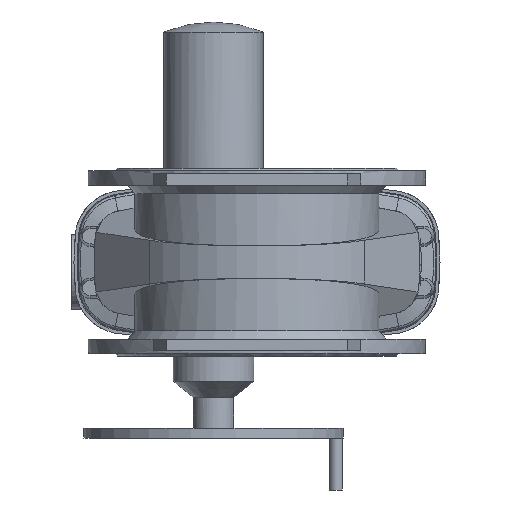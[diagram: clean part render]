
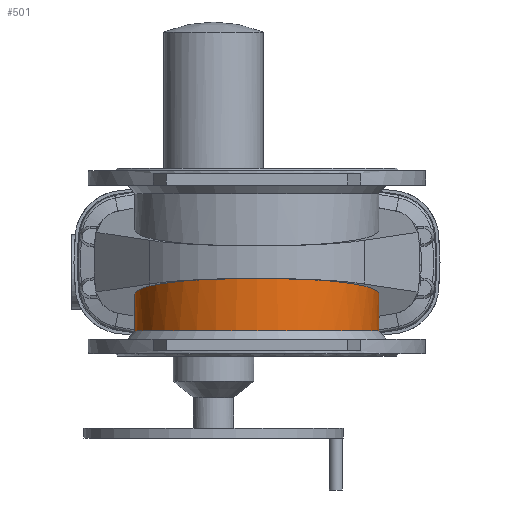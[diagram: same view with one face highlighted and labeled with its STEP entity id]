
A CAD part, front view. The second image highlights one B-rep face of the part: STEP entity #501.
In plain terms, the highlighted cylindrical face has radius 188 mm (diameter 376 mm), a partial arc.
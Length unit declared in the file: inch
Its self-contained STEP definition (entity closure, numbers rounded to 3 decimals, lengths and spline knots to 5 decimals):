
#42 =( BOUNDED_CURVE ( )  B_SPLINE_CURVE ( 3, ( #13024, #13023, #13032, #13033 ),
 .UNSPECIFIED., .F., .F. ) 
 B_SPLINE_CURVE_WITH_KNOTS ( ( 4, 4 ),
 ( 6.15842, 9.25744 ),
 .UNSPECIFIED. ) 
 CURVE ( )  GEOMETRIC_REPRESENTATION_ITEM ( )  RATIONAL_B_SPLINE_CURVE ( ( 1., 0.348, 0.348, 1. ) ) 
 REPRESENTATION_ITEM ( '' )  );
#47 =( BOUNDED_CURVE ( )  B_SPLINE_CURVE ( 3, ( #13008, #13006, #13018, #13019 ),
 .UNSPECIFIED., .F., .F. ) 
 B_SPLINE_CURVE_WITH_KNOTS ( ( 4, 4 ),
 ( 6.15842, 9.25744 ),
 .UNSPECIFIED. ) 
 CURVE ( )  GEOMETRIC_REPRESENTATION_ITEM ( )  RATIONAL_B_SPLINE_CURVE ( ( 1., 0.348, 0.348, 1. ) ) 
 REPRESENTATION_ITEM ( '' )  );
#501 = ADVANCED_FACE ( 'NONE', ( #3979 ), #3984, .T. ) ;
#873 = EDGE_LOOP ( 'NONE', ( #19031, #19032, #19033, #19034, #19035 ) ) ;
#2253 = EDGE_CURVE ( 'NONE', #17364, #17372, #11306, .T. ) ;
#2262 = EDGE_CURVE ( 'NONE', #18386, #17372, #47, .T. ) ;
#2264 = EDGE_CURVE ( 'NONE', #17376, #17364, #11328, .T. ) ;
#2265 = EDGE_CURVE ( 'NONE', #17376, #17379, #11327, .T. ) ;
#2266 = EDGE_CURVE ( 'NONE', #18386, #17379, #42, .T. ) ;
#3979 = FACE_OUTER_BOUND ( 'NONE', #873, .T. ) ;
#3984 = CYLINDRICAL_SURFACE ( 'NONE', #19301, 7.40157 ) ;
#4893 = DIRECTION ( 'NONE',  ( -1., 0., 0. ) ) ;
#4897 = DIRECTION ( 'NONE',  ( 0., 0., 1. ) ) ;
#4898 = CARTESIAN_POINT ( 'NONE',  ( 0., 14.46405, -39.37008 ) ) ;
#10433 = CARTESIAN_POINT ( 'NONE',  ( 0., 7.06248, -1.01471 ) ) ;
#11306 = LINE ( 'NONE', #12991, #11314 ) ;
#11314 = VECTOR ( 'NONE', #12992, 39.37008 ) ;
#11327 = LINE ( 'NONE', #13025, #11330 ) ;
#11328 = CIRCLE ( 'NONE', #11710, 7.40157 ) ;
#11330 = VECTOR ( 'NONE', #13017, 39.37008 ) ;
#11710 = AXIS2_PLACEMENT_3D ( 'NONE', #13026, #13027, #13028 ) ;
#12991 = CARTESIAN_POINT ( 'NONE',  ( -0.31496, 21.85892, -39.37008 ) ) ;
#12992 = DIRECTION ( 'NONE',  ( 0., 0., 1. ) ) ;
#13006 = CARTESIAN_POINT ( 'NONE',  ( -14.19559, 7.06248, -0.76449 ) ) ;
#13008 = CARTESIAN_POINT ( 'NONE',  ( 0., 7.06248, -1.01471 ) ) ;
#13017 = DIRECTION ( 'NONE',  ( 0., 0., 1. ) ) ;
#13018 = CARTESIAN_POINT ( 'NONE',  ( -14.49769, 21.25485, -2.75377 ) ) ;
#13019 = CARTESIAN_POINT ( 'NONE',  ( -0.31496, 21.85892, -3.08866 ) ) ;
#13023 = CARTESIAN_POINT ( 'NONE',  ( 14.19559, 7.06248, -0.76449 ) ) ;
#13024 = CARTESIAN_POINT ( 'NONE',  ( 0., 7.06248, -1.01471 ) ) ;
#13025 = CARTESIAN_POINT ( 'NONE',  ( 0.31496, 21.85892, -39.37008 ) ) ;
#13026 = CARTESIAN_POINT ( 'NONE',  ( 0., 14.46405, -4.14924 ) ) ;
#13027 = DIRECTION ( 'NONE',  ( 0., 0., -1. ) ) ;
#13028 = DIRECTION ( 'NONE',  ( -1., 0., 0. ) ) ;
#13032 = CARTESIAN_POINT ( 'NONE',  ( 14.49769, 21.25485, -2.75377 ) ) ;
#13033 = CARTESIAN_POINT ( 'NONE',  ( 0.31496, 21.85892, -3.08866 ) ) ;
#14476 = CARTESIAN_POINT ( 'NONE',  ( -0.31496, 21.85892, -4.14924 ) ) ;
#14484 = CARTESIAN_POINT ( 'NONE',  ( -0.31496, 21.85892, -3.08866 ) ) ;
#14488 = CARTESIAN_POINT ( 'NONE',  ( 0.31496, 21.85892, -4.14924 ) ) ;
#14491 = CARTESIAN_POINT ( 'NONE',  ( 0.31496, 21.85892, -3.08866 ) ) ;
#17364 = VERTEX_POINT ( 'NONE', #14476 ) ;
#17372 = VERTEX_POINT ( 'NONE', #14484 ) ;
#17376 = VERTEX_POINT ( 'NONE', #14488 ) ;
#17379 = VERTEX_POINT ( 'NONE', #14491 ) ;
#18386 = VERTEX_POINT ( 'NONE', #10433 ) ;
#19031 = ORIENTED_EDGE ( 'NONE', *, *, #2264, .F. ) ;
#19032 = ORIENTED_EDGE ( 'NONE', *, *, #2265, .T. ) ;
#19033 = ORIENTED_EDGE ( 'NONE', *, *, #2266, .F. ) ;
#19034 = ORIENTED_EDGE ( 'NONE', *, *, #2262, .T. ) ;
#19035 = ORIENTED_EDGE ( 'NONE', *, *, #2253, .F. ) ;
#19301 = AXIS2_PLACEMENT_3D ( 'NONE', #4898, #4897, #4893 ) ;
